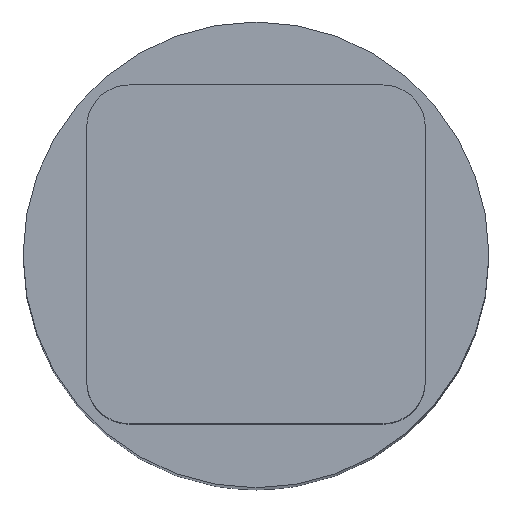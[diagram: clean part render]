
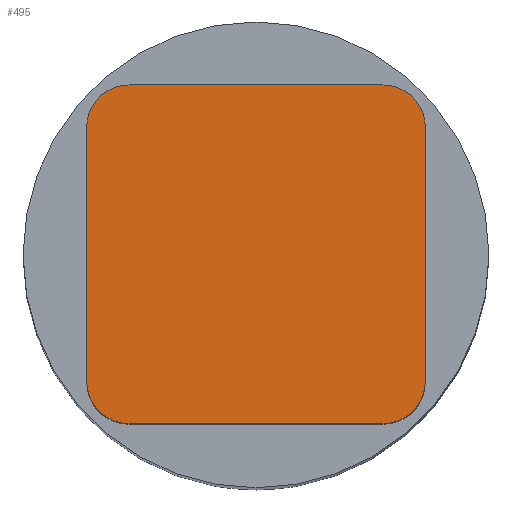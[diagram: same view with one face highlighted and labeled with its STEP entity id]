
A CAD part, top view. The second image highlights one B-rep face of the part: STEP entity #495.
In plain terms, the highlighted planar face has unit normal (0, 0, 1).
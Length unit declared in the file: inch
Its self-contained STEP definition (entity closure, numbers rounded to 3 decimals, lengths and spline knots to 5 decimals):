
#34 = EDGE_CURVE ( 'NONE', #44, #316, #605, .T. ) ;
#44 = VERTEX_POINT ( 'NONE', #758 ) ;
#50 = DIRECTION ( 'NONE',  ( 0., 0., 1. ) ) ;
#55 = VERTEX_POINT ( 'NONE', #451 ) ;
#58 = EDGE_CURVE ( 'NONE', #316, #477, #765, .T. ) ;
#60 = ORIENTED_EDGE ( 'NONE', *, *, #144, .T. ) ;
#67 = DIRECTION ( 'NONE',  ( 0., 0., 1. ) ) ;
#95 = AXIS2_PLACEMENT_3D ( 'NONE', #526, #160, #585 ) ;
#108 = CARTESIAN_POINT ( 'NONE',  ( -0.3745, -0.4995, 1. ) ) ;
#111 = VECTOR ( 'NONE', #651, 39.37008 ) ;
#122 = AXIS2_PLACEMENT_3D ( 'NONE', #225, #654, #757 ) ;
#126 = CARTESIAN_POINT ( 'NONE',  ( -0.4995, 0.3745, 1. ) ) ;
#137 = ORIENTED_EDGE ( 'NONE', *, *, #58, .T. ) ;
#140 = VERTEX_POINT ( 'NONE', #273 ) ;
#144 = EDGE_CURVE ( 'NONE', #55, #567, #250, .T. ) ;
#160 = DIRECTION ( 'NONE',  ( 0., 0., 1. ) ) ;
#162 = VECTOR ( 'NONE', #307, 39.37008 ) ;
#169 = ORIENTED_EDGE ( 'NONE', *, *, #704, .T. ) ;
#183 = DIRECTION ( 'NONE',  ( 0., 0., 1. ) ) ;
#186 = LINE ( 'NONE', #367, #162 ) ;
#198 = DIRECTION ( 'NONE',  ( -1., 0., 0. ) ) ;
#200 = CARTESIAN_POINT ( 'NONE',  ( 0.4995, -0.4995, 1. ) ) ;
#225 = CARTESIAN_POINT ( 'NONE',  ( 0., 0., 1. ) ) ;
#233 = EDGE_CURVE ( 'NONE', #567, #140, #694, .T. ) ;
#234 = ORIENTED_EDGE ( 'NONE', *, *, #34, .T. ) ;
#236 = AXIS2_PLACEMENT_3D ( 'NONE', #409, #50, #470 ) ;
#250 = CIRCLE ( 'NONE', #95, 0.125 ) ;
#273 = CARTESIAN_POINT ( 'NONE',  ( 0.3745, -0.4995, 1. ) ) ;
#292 = EDGE_CURVE ( 'NONE', #441, #636, #674, .T. ) ;
#307 = DIRECTION ( 'NONE',  ( 0., -1., 0. ) ) ;
#311 = VECTOR ( 'NONE', #724, 39.37008 ) ;
#316 = VERTEX_POINT ( 'NONE', #666 ) ;
#367 = CARTESIAN_POINT ( 'NONE',  ( -0.4995, -0.4995, 1. ) ) ;
#378 = CARTESIAN_POINT ( 'NONE',  ( 0.4995, -0.3745, 1. ) ) ;
#409 = CARTESIAN_POINT ( 'NONE',  ( 0.3745, -0.3745, 1. ) ) ;
#431 = CARTESIAN_POINT ( 'NONE',  ( -0.3745, 0.3745, 1. ) ) ;
#441 = VERTEX_POINT ( 'NONE', #378 ) ;
#451 = CARTESIAN_POINT ( 'NONE',  ( -0.4995, -0.3745, 1. ) ) ;
#470 = DIRECTION ( 'NONE',  ( -1., 0., 0. ) ) ;
#477 = VERTEX_POINT ( 'NONE', #126 ) ;
#480 = FACE_OUTER_BOUND ( 'NONE', #753, .T. ) ;
#495 = ADVANCED_FACE ( 'NONE', ( #480 ), #716, .F. ) ;
#503 = CIRCLE ( 'NONE', #236, 0.125 ) ;
#511 = ORIENTED_EDGE ( 'NONE', *, *, #292, .T. ) ;
#520 = CARTESIAN_POINT ( 'NONE',  ( -0.4995, 0.4995, 1. ) ) ;
#526 = CARTESIAN_POINT ( 'NONE',  ( -0.3745, -0.3745, 1. ) ) ;
#530 = EDGE_CURVE ( 'NONE', #140, #441, #503, .T. ) ;
#548 = ORIENTED_EDGE ( 'NONE', *, *, #688, .T. ) ;
#552 = CARTESIAN_POINT ( 'NONE',  ( 0.3745, 0.3745, 1. ) ) ;
#567 = VERTEX_POINT ( 'NONE', #108 ) ;
#585 = DIRECTION ( 'NONE',  ( -1., 0., 0. ) ) ;
#601 = ORIENTED_EDGE ( 'NONE', *, *, #530, .T. ) ;
#605 = LINE ( 'NONE', #520, #619 ) ;
#612 = AXIS2_PLACEMENT_3D ( 'NONE', #552, #183, #613 ) ;
#613 = DIRECTION ( 'NONE',  ( -1., 0., 0. ) ) ;
#619 = VECTOR ( 'NONE', #759, 39.37008 ) ;
#636 = VERTEX_POINT ( 'NONE', #789 ) ;
#651 = DIRECTION ( 'NONE',  ( 1., 0., 0. ) ) ;
#654 = DIRECTION ( 'NONE',  ( 0., 0., -1. ) ) ;
#666 = CARTESIAN_POINT ( 'NONE',  ( -0.3745, 0.4995, 1. ) ) ;
#674 = LINE ( 'NONE', #200, #311 ) ;
#675 = ORIENTED_EDGE ( 'NONE', *, *, #233, .T. ) ;
#688 = EDGE_CURVE ( 'NONE', #636, #44, #762, .T. ) ;
#694 = LINE ( 'NONE', #709, #111 ) ;
#704 = EDGE_CURVE ( 'NONE', #477, #55, #186, .T. ) ;
#709 = CARTESIAN_POINT ( 'NONE',  ( -0.4995, -0.4995, 1. ) ) ;
#716 = PLANE ( 'NONE',  #122 ) ;
#724 = DIRECTION ( 'NONE',  ( 0., 1., 0. ) ) ;
#753 = EDGE_LOOP ( 'NONE', ( #675, #601, #511, #548, #234, #137, #169, #60 ) ) ;
#757 = DIRECTION ( 'NONE',  ( -1., 0., 0. ) ) ;
#758 = CARTESIAN_POINT ( 'NONE',  ( 0.3745, 0.4995, 1. ) ) ;
#759 = DIRECTION ( 'NONE',  ( -1., 0., 0. ) ) ;
#762 = CIRCLE ( 'NONE', #612, 0.125 ) ;
#765 = CIRCLE ( 'NONE', #766, 0.125 ) ;
#766 = AXIS2_PLACEMENT_3D ( 'NONE', #431, #67, #198 ) ;
#789 = CARTESIAN_POINT ( 'NONE',  ( 0.4995, 0.3745, 1. ) ) ;
